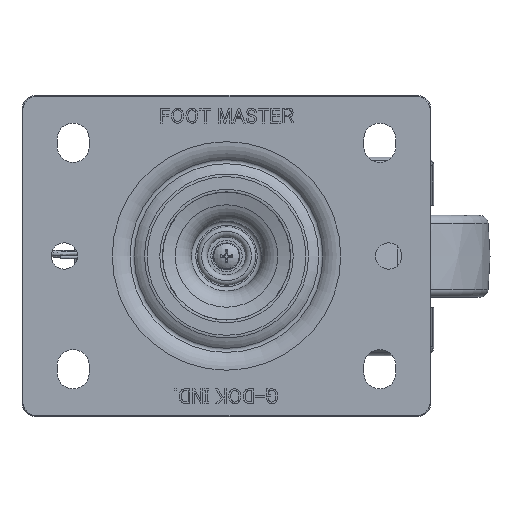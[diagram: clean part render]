
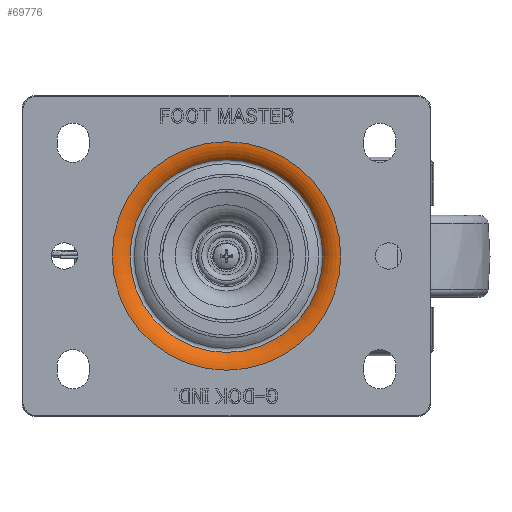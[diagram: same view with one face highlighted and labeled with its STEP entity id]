
A CAD part, top view. The second image highlights one B-rep face of the part: STEP entity #69776.
In plain terms, the highlighted toroidal (fillet/blend) face has major radius 39.119 mm and minor radius 8 mm.
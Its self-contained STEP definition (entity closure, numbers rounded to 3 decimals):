
#18565=FACE_OUTER_BOUND('',#22755,.T.);
#22755=EDGE_LOOP('',(#58362,#58363,#58364,#58365,#58366,#58367));
#28899=CIRCLE('',#75101,33.013);
#28900=CIRCLE('',#75102,33.013);
#28902=CIRCLE('',#75105,39.119);
#28903=CIRCLE('',#75106,8.);
#28904=CIRCLE('',#75107,39.119);
#34314=VERTEX_POINT('',#128085);
#34315=VERTEX_POINT('',#128086);
#34316=VERTEX_POINT('',#128091);
#34317=VERTEX_POINT('',#128092);
#42713=EDGE_CURVE('',#34314,#34315,#28899,.T.);
#42714=EDGE_CURVE('',#34315,#34314,#28900,.T.);
#42716=EDGE_CURVE('',#34316,#34317,#28902,.T.);
#42717=EDGE_CURVE('',#34317,#34315,#28903,.T.);
#42718=EDGE_CURVE('',#34317,#34316,#28904,.T.);
#58362=ORIENTED_EDGE('',*,*,#42716,.T.);
#58363=ORIENTED_EDGE('',*,*,#42717,.T.);
#58364=ORIENTED_EDGE('',*,*,#42714,.T.);
#58365=ORIENTED_EDGE('',*,*,#42713,.T.);
#58366=ORIENTED_EDGE('',*,*,#42717,.F.);
#58367=ORIENTED_EDGE('',*,*,#42718,.T.);
#67442=TOROIDAL_SURFACE('',#75104,39.119,8.);
#69776=ADVANCED_FACE('',(#18565),#67442,.T.);
#75101=AXIS2_PLACEMENT_3D('',#128087,#87503,#87504);
#75102=AXIS2_PLACEMENT_3D('',#128088,#87505,#87506);
#75104=AXIS2_PLACEMENT_3D('',#128090,#87509,#87510);
#75105=AXIS2_PLACEMENT_3D('',#128093,#87511,#87512);
#75106=AXIS2_PLACEMENT_3D('',#128094,#87513,#87514);
#75107=AXIS2_PLACEMENT_3D('',#128095,#87515,#87516);
#87503=DIRECTION('center_axis',(0.,0.,
-1.));
#87504=DIRECTION('ref_axis',(1.,0.,0.));
#87505=DIRECTION('center_axis',(0.,0.,
-1.));
#87506=DIRECTION('ref_axis',(1.,0.,0.));
#87509=DIRECTION('center_axis',(0.,0.,
-1.));
#87510=DIRECTION('ref_axis',(-1.,0.,0.));
#87511=DIRECTION('center_axis',(0.,0.,
1.));
#87512=DIRECTION('ref_axis',(-1.,0.,0.));
#87513=DIRECTION('center_axis',(0.,-1.,0.));
#87514=DIRECTION('ref_axis',(1.,0.,0.));
#87515=DIRECTION('center_axis',(0.,0.,
1.));
#87516=DIRECTION('ref_axis',(-1.,0.,0.));
#128085=CARTESIAN_POINT('',(-33.013,0.,-2.791));
#128086=CARTESIAN_POINT('',(33.013,0.,-2.791));
#128087=CARTESIAN_POINT('Origin',(0.,0.,
-2.791));
#128088=CARTESIAN_POINT('Origin',(0.,0.,
-2.791));
#128090=CARTESIAN_POINT('Origin',(0.,0.,
-7.96));
#128091=CARTESIAN_POINT('',(-39.119,0.,0.04));
#128092=CARTESIAN_POINT('',(39.119,0.,0.04));
#128093=CARTESIAN_POINT('Origin',(0.,0.,
0.04));
#128094=CARTESIAN_POINT('Origin',(39.119,0.,
-7.96));
#128095=CARTESIAN_POINT('Origin',(0.,0.,
0.04));
